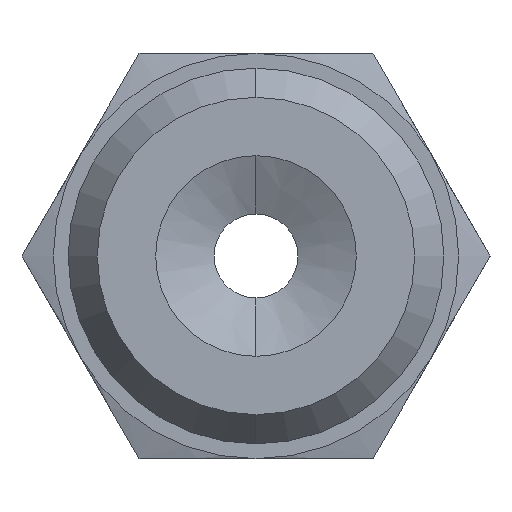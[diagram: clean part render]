
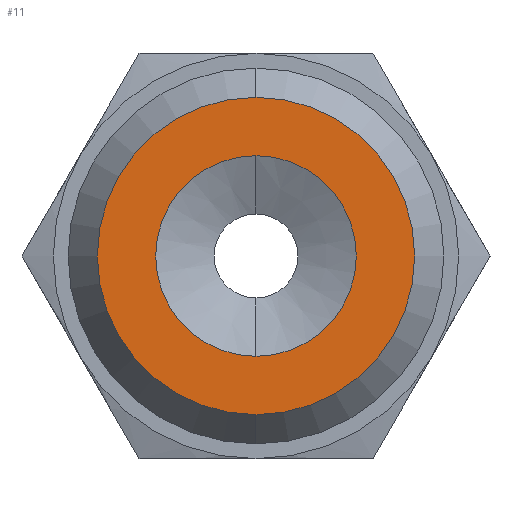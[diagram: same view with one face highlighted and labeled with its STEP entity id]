
A CAD part, left-side view. The second image highlights one B-rep face of the part: STEP entity #11.
In plain terms, the highlighted planar face has unit normal (-1, 0, 0).
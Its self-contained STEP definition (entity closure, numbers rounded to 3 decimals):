
#7 = ORIENTED_EDGE ( 'NONE', *, *, #50, .F. ) ;
#8 = EDGE_LOOP ( 'NONE', ( #21, #14 ) ) ;
#11 = ADVANCED_FACE ( 'NONE', ( #746, #741 ), #740, .T. ) ;
#13 = EDGE_LOOP ( 'NONE', ( #25, #7 ) ) ;
#14 = ORIENTED_EDGE ( 'NONE', *, *, #97, .T. ) ;
#21 = ORIENTED_EDGE ( 'NONE', *, *, #22, .T. ) ;
#22 = EDGE_CURVE ( 'NONE', #47, #52, #725, .T. ) ;
#25 = ORIENTED_EDGE ( 'NONE', *, *, #562, .F. ) ;
#37 = VERTEX_POINT ( 'NONE', #705 ) ;
#41 = VERTEX_POINT ( 'NONE', #704 ) ;
#47 = VERTEX_POINT ( 'NONE', #696 ) ;
#50 = EDGE_CURVE ( 'NONE', #41, #37, #687, .T. ) ;
#52 = VERTEX_POINT ( 'NONE', #649 ) ;
#97 = EDGE_CURVE ( 'NONE', #52, #47, #666, .T. ) ;
#562 = EDGE_CURVE ( 'NONE', #37, #41, #1549, .T. ) ;
#649 = CARTESIAN_POINT ( 'NONE',  ( -9.7, 0., -4.35 ) ) ;
#651 = DIRECTION ( 'NONE',  ( 0., 0., 1. ) ) ;
#652 = DIRECTION ( 'NONE',  ( -1., 0., 0. ) ) ;
#653 = CARTESIAN_POINT ( 'NONE',  ( -9.7, 0., 0. ) ) ;
#656 = DIRECTION ( 'NONE',  ( 0., 0., 1. ) ) ;
#657 = DIRECTION ( 'NONE',  ( -1., 0., 0. ) ) ;
#658 = CARTESIAN_POINT ( 'NONE',  ( -9.7, 0., 0. ) ) ;
#659 = AXIS2_PLACEMENT_3D ( 'NONE', #658, #657, #656 ) ;
#666 = CIRCLE ( 'NONE', #659, 4.35 ) ;
#686 = AXIS2_PLACEMENT_3D ( 'NONE', #653, #652, #651 ) ;
#687 = CIRCLE ( 'NONE', #686, 2.75 ) ;
#696 = CARTESIAN_POINT ( 'NONE',  ( -9.7, 0., 4.35 ) ) ;
#704 = CARTESIAN_POINT ( 'NONE',  ( -9.7, 0., -2.75 ) ) ;
#705 = CARTESIAN_POINT ( 'NONE',  ( -9.7, 0., 2.75 ) ) ;
#718 = DIRECTION ( 'NONE',  ( 0., 0., 1. ) ) ;
#719 = DIRECTION ( 'NONE',  ( -1., 0., 0. ) ) ;
#720 = CARTESIAN_POINT ( 'NONE',  ( -9.7, 0., 0. ) ) ;
#721 = AXIS2_PLACEMENT_3D ( 'NONE', #720, #719, #718 ) ;
#725 = CIRCLE ( 'NONE', #721, 4.35 ) ;
#735 = DIRECTION ( 'NONE',  ( 0., 0., 1. ) ) ;
#736 = DIRECTION ( 'NONE',  ( -1., 0., 0. ) ) ;
#737 = AXIS2_PLACEMENT_3D ( 'NONE', #739, #736, #735 ) ;
#739 = CARTESIAN_POINT ( 'NONE',  ( -9.7, 0., 0. ) ) ;
#740 = PLANE ( 'NONE',  #737 ) ;
#741 = FACE_OUTER_BOUND ( 'NONE', #8, .T. ) ;
#746 = FACE_BOUND ( 'NONE', #13, .T. ) ;
#1545 = DIRECTION ( 'NONE',  ( 0., 0., 1. ) ) ;
#1546 = DIRECTION ( 'NONE',  ( -1., 0., 0. ) ) ;
#1547 = CARTESIAN_POINT ( 'NONE',  ( -9.7, 0., 0. ) ) ;
#1548 = AXIS2_PLACEMENT_3D ( 'NONE', #1547, #1546, #1545 ) ;
#1549 = CIRCLE ( 'NONE', #1548, 2.75 ) ;
